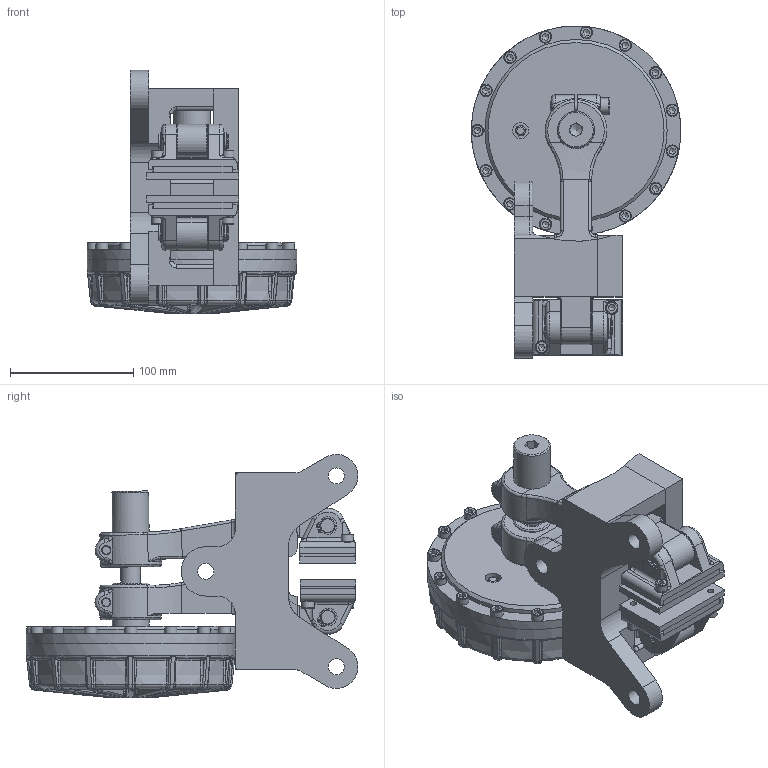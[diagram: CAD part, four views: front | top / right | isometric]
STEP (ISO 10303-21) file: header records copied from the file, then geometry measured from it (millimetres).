
FILE_DESCRIPTION(/* description */ ('','CAx-IF Rec.Pracs.---Representation and Presentation of Product Manufacturing Information (PMI)---4.0---2014-10-13'),/* implementation_level */ '2;1');
FILE_NAME(/* name */ 'X:\INVENTOR\DISEGNI\19_Pinze\STEP x Sito\PNEUM-POSITIVE\19_16_024_03 PPF024_12,7.stp',/* time_stamp */ '2018-02-14T08:51:18+01:00',/* author */ ('stefano'),/* organization */ (''),/* preprocessor_version */ 'ST-DEVELOPER v17',/* originating_system */ 'Autodesk Inventor 2018',/* authorisation */ '');
FILE_SCHEMA (('AP242_MANAGED_MODEL_BASED_3D_ENGINEERING_MIM_LF { 1 0 10303 442 1 1 4 }'));
Products named in the file (1): 19_16_024_03 PPF024_12,7_Substitute_2
Bounding box: 170 x 269.44 x 197.5 mm (x, y, z)
Volume: 2146069.4 mm3; surface area: 271039.3 mm2
Topology: 5 solids, 5 shells, 1940 faces, 5188 edges, 3289 vertices
Faces by surface type: plane 663, cylinder 514, bspline 480, torus 178, cone 105
Full cylindrical faces by diameter (mm): 1.7 x14, 4.917 x8, 5 x1, 7.25 x2, 8 x2, 8.5 x2, 10 x26, 10.5 x2, 11.5 x4, 12 x11, 13 x6, 13.3 x6, 13.5 x2, 14 x12, 14.95 x1, 16 x4, 16.5 x2, 19 x1, 22.6 x1, 30 x2, 40 x1, 120 x1, 148 x1, 170 x2
Entity records: 79941 total; most frequent: CARTESIAN_POINT 32488, ORIENTED_EDGE 10302, DIRECTION 8674, EDGE_CURVE 5151, AXIS2_PLACEMENT_3D 3500, VERTEX_POINT 3289, EDGE_LOOP 2061, FACE_OUTER_BOUND 1940
